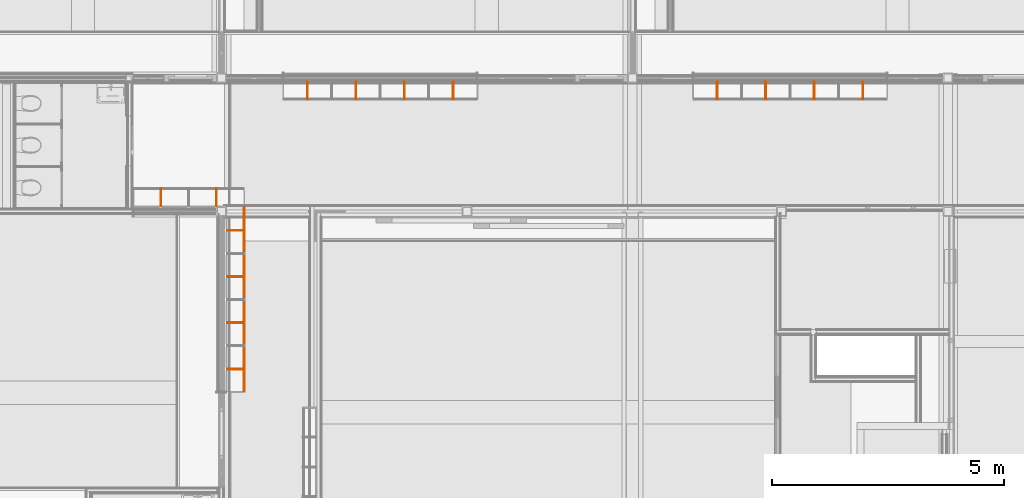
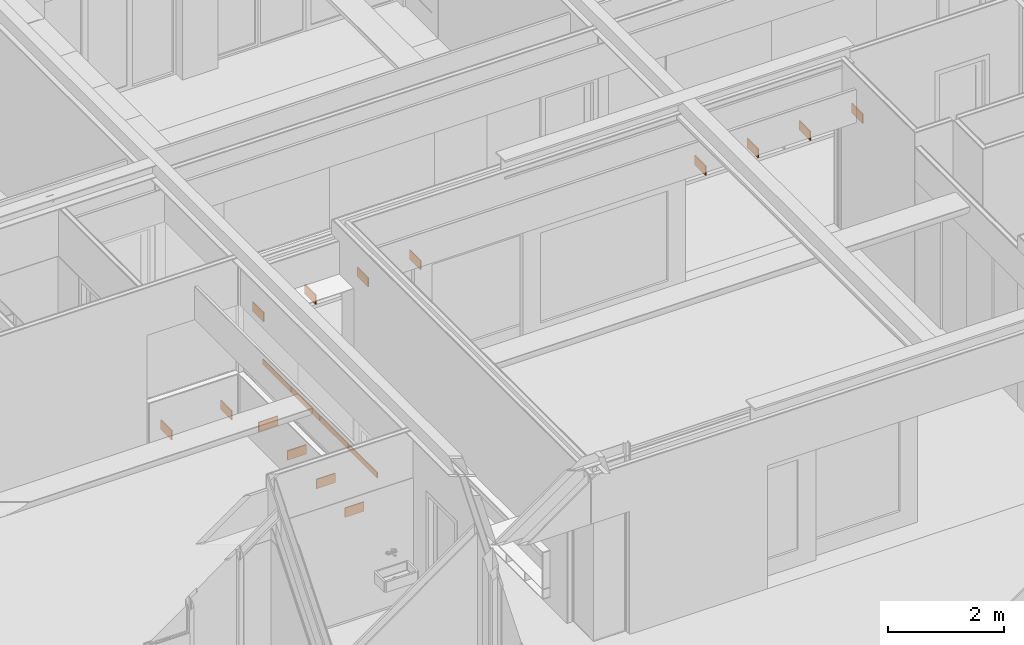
# One storey, part 165 of 165: 18 proxies.
"""IFC2X3 building model written with IfcOpenShell, lengths in millimetres."""

from ifc_helpers import new_model, entity, si_unit, converted_unit, derived_unit, money_unit, direction, frame, origin_with_axes, place, context, subcontext, project, spatial, faceted_brep, material, type_object, element, save


model = new_model("IFC2X3")

# Units and contexts
model_context = context("Model", 3, precision=0.01, world=origin_with_axes(), true_north=direction((0.0, 1.0)))
body_context = subcontext(model_context, "Body", "Model", "MODEL_VIEW")
ifc_project = project(units=[si_unit("LENGTHUNIT", "METRE", prefix="MILLI"), si_unit("AREAUNIT", "SQUARE_METRE"), si_unit("VOLUMEUNIT", "CUBIC_METRE"), converted_unit("PLANEANGLEUNIT", "DEGREE", entity("IfcPlaneAngleMeasure", 0.0174532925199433), si_unit("PLANEANGLEUNIT", "RADIAN"), dimensions=[0, 0, 0, 0, 0, 0, 0]), money_unit("EUR"), converted_unit("TIMEUNIT", "Year", entity("IfcTimeMeasure", 31556926.0), si_unit("TIMEUNIT", "SECOND"), dimensions=[0, 0, 1, 0, 0, 0, 0]), si_unit("MASSUNIT", "GRAM", prefix="KILO"), si_unit("THERMODYNAMICTEMPERATUREUNIT", "DEGREE_CELSIUS"), si_unit("LUMINOUSINTENSITYUNIT", "LUMEN"), si_unit("ENERGYUNIT", "JOULE", prefix="MEGA"), derived_unit("THERMALCONDUCTANCEUNIT", [(si_unit("POWERUNIT", "WATT"), 1), (si_unit("LENGTHUNIT", "METRE"), -1), (si_unit("THERMODYNAMICTEMPERATUREUNIT", "KELVIN"), -1)]), derived_unit("SPECIFICHEATCAPACITYUNIT", [(si_unit("ENERGYUNIT", "JOULE"), 1), (si_unit("MASSUNIT", "GRAM", prefix="KILO"), -1), (si_unit("THERMODYNAMICTEMPERATUREUNIT", "KELVIN"), -1)]), derived_unit("MASSDENSITYUNIT", [(si_unit("MASSUNIT", "GRAM", prefix="KILO"), 1), (si_unit("VOLUMEUNIT", "CUBIC_METRE"), -1)])], contexts=[model_context])

# Site, building, storey
site_placement = place(None, origin_with_axes())
site = spatial("IfcSite", under=ifc_project, at=site_placement, Name="Site", CompositionType="ELEMENT")
building_placement = place(site_placement, origin_with_axes())
building = spatial("IfcBuilding", under=site, at=building_placement, Name="Naam gebouw", CompositionType="ELEMENT")
storey_placement = place(building_placement, origin_with_axes())
storey = spatial("IfcBuildingStorey", under=building, at=storey_placement, Name="Begane grond", CompositionType="ELEMENT", Elevation=0.0)

# Proxies
ifc_material = material(Name="Hout AFW")
building_element_proxy_type_1 = type_object("IfcBuildingElementProxyType", Name="Hout AFW 18", PredefinedType="NOTDEFINED")
proxy_1_placement = place(storey_placement, frame((9350.004002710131, 15569.9998112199, 1062.0), z_axis=(0.0, 0.0, 1.0), x_axis=(0.0, 1.0, 0.0)))
element("IfcBuildingElementProxy", 1, at=proxy_1_placement, inside=storey, type_object=building_element_proxy_type_1, material=ifc_material, Name="i HOUT_Wand-x", context=body_context, shape_type="Brep", body=[
    faceted_brep([(0.0, 18.00000000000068, 0.0), (979.9999996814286, 18.00000000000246, 0.0), (979.9999996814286, 0.0, 0.0), (0.0, 0.0, 0.0), (0.0, 18.00000000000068, 117.9999999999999), (979.9999996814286, 18.00000000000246, 117.9999999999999), (979.9999996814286, 0.0, 117.9999999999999), (0.0, 0.0, 117.9999999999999)], [[[0, 1, 2, 3]], [[4, 5, 1, 0]], [[2, 1, 5, 6]], [[3, 2, 6, 7]], [[4, 0, 3, 7]], [[7, 6, 5, 4]]]),
])
proxy_2_placement = place(storey_placement, frame((9350.004002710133, 16569.99981090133, 1062.0), z_axis=(0.0, 0.0, 1.0), x_axis=(0.0, 1.0, 0.0)))
element("IfcBuildingElementProxy", 2, at=proxy_2_placement, inside=storey, type_object=building_element_proxy_type_1, material=ifc_material, Name="i HOUT_Wand-x", context=body_context, shape_type="Brep", body=[
    faceted_brep([(0.0, 18.00000000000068, 0.0), (970.0000003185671, 18.00000000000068, 0.0), (970.0000003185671, 0.0, 0.0), (0.0, 0.0, 0.0), (0.0, 18.00000000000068, 117.9999999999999), (970.0000003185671, 18.00000000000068, 117.9999999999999), (970.0000003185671, 0.0, 117.9999999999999), (0.0, 0.0, 117.9999999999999)], [[[0, 1, 2, 3]], [[4, 5, 1, 0]], [[2, 1, 5, 6]], [[3, 2, 6, 7]], [[4, 0, 3, 7]], [[7, 6, 5, 4]]]),
])
proxy_3_placement = place(storey_placement, frame((9350.004002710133, 17559.9998112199, 1062.0), z_axis=(0.0, 0.0, 1.0), x_axis=(0.0, 1.0, 0.0)))
element("IfcBuildingElementProxy", 3, at=proxy_3_placement, inside=storey, type_object=building_element_proxy_type_1, material=ifc_material, Name="i HOUT_Wand-x", context=body_context, shape_type="Brep", body=[
    faceted_brep([(0.0, 18.00000000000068, 0.0), (969.9999984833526, 18.00000000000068, 0.0), (969.9999984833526, 0.0, 0.0), (0.0, 0.0, 0.0), (0.0, 18.00000000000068, 117.9999999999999), (969.9999984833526, 18.00000000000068, 117.9999999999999), (969.9999984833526, 0.0, 117.9999999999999), (0.0, 0.0, 117.9999999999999)], [[[0, 1, 2, 3]], [[4, 5, 1, 0]], [[2, 1, 5, 6]], [[3, 2, 6, 7]], [[4, 0, 3, 7]], [[7, 6, 5, 4]]]),
])
proxy_4_placement = place(storey_placement, frame((9350.004002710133, 18549.99980970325, 1062.0), z_axis=(0.0, 0.0, 1.0), x_axis=(0.0, 1.0, 0.0)))
element("IfcBuildingElementProxy", 4, at=proxy_4_placement, inside=storey, type_object=building_element_proxy_type_1, material=ifc_material, Name="i HOUT_Wand-x", context=body_context, shape_type="Brep", body=[
    faceted_brep([(0.0, 18.00000000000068, 0.0), (980.0000015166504, 18.00000000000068, 0.0), (980.0000015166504, 0.0, 0.0), (0.0, 0.0, 0.0), (0.0, 18.00000000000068, 117.9999999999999), (980.0000015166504, 18.00000000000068, 117.9999999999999), (980.0000015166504, 0.0, 117.9999999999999), (0.0, 0.0, 117.9999999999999)], [[[0, 1, 2, 3]], [[4, 5, 1, 0]], [[2, 1, 5, 6]], [[3, 2, 6, 7]], [[4, 0, 3, 7]], [[7, 6, 5, 4]]]),
])
building_element_proxy_type_2 = type_object("IfcBuildingElementProxyType", Name="Hout AFW 20", PredefinedType="NOTDEFINED")
proxy_5_placement = place(storey_placement, frame((22667.47857350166, 22242.62391659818, 70.0), z_axis=(0.0, 0.0, 1.0), x_axis=(0.0, -1.0, 0.0)))
element("IfcBuildingElementProxy", 5, at=proxy_5_placement, inside=storey, type_object=building_element_proxy_type_2, material=ifc_material, Name="i HOUT_Wand-x", context=body_context, shape_type="Brep", body=[
    faceted_brep([(0.0, 10.00000000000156, 0.0), (380.006513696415, 10.00000000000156, 0.0), (380.006513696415, -10.00000000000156, 0.0), (0.0, -10.00000000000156, 0.0), (0.0, 10.00000000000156, 197.9999999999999), (380.006513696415, 10.00000000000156, 197.9999999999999), (380.006513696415, -10.00000000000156, 197.9999999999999), (0.0, -10.00000000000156, 197.9999999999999)], [[[0, 1, 2, 3]], [[4, 5, 1, 0]], [[2, 1, 5, 6]], [[3, 2, 6, 7]], [[4, 0, 3, 7]], [[7, 6, 5, 4]]]),
])
proxy_6_placement = place(storey_placement, frame((8742.5, 19569.85210869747, 70.0), z_axis=(0.0, 0.0, 1.0), x_axis=(0.0, 1.0, 0.0)))
element("IfcBuildingElementProxy", 6, at=proxy_6_placement, inside=storey, type_object=building_element_proxy_type_2, material=ifc_material, Name="i HOUT_Wand-x", context=body_context, shape_type="Brep", body=[
    faceted_brep([(0.0, 9.999999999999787, 0.0), (380.006513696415, 10.00000000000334, 0.0), (380.006513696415, -9.999999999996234, 0.0), (0.0, -9.999999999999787, 0.0), (0.0, 9.999999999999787, 197.9999999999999), (380.006513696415, 10.00000000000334, 197.9999999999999), (380.006513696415, -9.999999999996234, 197.9999999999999), (0.0, -9.999999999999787, 197.9999999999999)], [[[0, 1, 2, 3]], [[4, 5, 1, 0]], [[2, 1, 5, 6]], [[3, 2, 6, 7]], [[4, 0, 3, 7]], [[7, 6, 5, 4]]]),
])
for number, where, z_axis, x_axis, name in (
    (7, (8969.852297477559, 19042.49980970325, 70.0), (0.0, 0.0, 1.0), (1.0, 0.0, 0.0), "i HOUT_Wand-x"),
    (8, (8969.852297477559, 18047.4998112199, 70.0), (0.0, 0.0, 1.0), (1.0, 0.0, 0.0), "i HOUT_Wand-x"),
    (9, (8969.852297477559, 17052.49981090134, 70.0), (0.0, 0.0, 1.0), (1.0, 0.0, 0.0), "i HOUT_Wand-x"),
):
    element("IfcBuildingElementProxy", number, at=place(storey_placement, frame(where, z_axis=z_axis, x_axis=x_axis)), inside=storey, type_object=building_element_proxy_type_2, material=ifc_material, Name=name, context=body_context, shape_type="Brep", body=[
        faceted_brep([(0.0, 10.00000000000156, 0.0), (380.006513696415, 10.00000000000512, 0.0), (380.006513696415, -9.99999999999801, 0.0), (0.0, -10.00000000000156, 0.0), (0.0, 10.00000000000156, 197.9999999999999), (380.006513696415, 10.00000000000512, 197.9999999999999), (380.006513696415, -9.99999999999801, 197.9999999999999), (0.0, -10.00000000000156, 197.9999999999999)], [[[0, 1, 2, 3]], [[4, 5, 1, 0]], [[2, 1, 5, 6]], [[3, 2, 6, 7]], [[4, 0, 3, 7]], [[7, 6, 5, 4]]]),
    ])
proxy_7_placement = place(storey_placement, frame((8969.852297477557, 16057.4998112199, 70.0), z_axis=(0.0, 0.0, 1.0), x_axis=(1.0, 0.0, 0.0)))
element("IfcBuildingElementProxy", 10, at=proxy_7_placement, inside=storey, type_object=building_element_proxy_type_2, material=ifc_material, Name="i HOUT_Wand-x", context=body_context, shape_type="Brep", body=[
    faceted_brep([(0.0, 10.00000000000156, 0.0), (380.006513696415, 10.00000000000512, 0.0), (380.0065136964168, -9.99999999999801, 0.0), (0.0, -10.00000000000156, 0.0), (0.0, 10.00000000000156, 197.9999999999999), (380.006513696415, 10.00000000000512, 197.9999999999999), (380.0065136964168, -9.99999999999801, 197.9999999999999), (0.0, -10.00000000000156, 197.9999999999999)], [[[0, 1, 2, 3]], [[4, 5, 1, 0]], [[2, 1, 5, 6]], [[3, 2, 6, 7]], [[4, 0, 3, 7]], [[7, 6, 5, 4]]]),
])
proxy_8_placement = place(storey_placement, frame((7547.500015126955, 19569.85210869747, 70.0), z_axis=(0.0, 0.0, 1.0), x_axis=(0.0, 1.0, 0.0)))
element("IfcBuildingElementProxy", 11, at=proxy_8_placement, inside=storey, type_object=building_element_proxy_type_2, material=ifc_material, Name="i HOUT_Wand-x", context=body_context, shape_type="Brep", body=[
    faceted_brep([(0.0, 9.999999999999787, 0.0), (380.006513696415, 10.00000000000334, 0.0), (380.006513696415, -9.999999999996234, 0.0), (0.0, -9.999999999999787, 0.0), (0.0, 9.999999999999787, 197.9999999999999), (380.006513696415, 10.00000000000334, 197.9999999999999), (380.006513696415, -9.999999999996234, 197.9999999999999), (0.0, -9.999999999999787, 197.9999999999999)], [[[0, 1, 2, 3]], [[4, 5, 1, 0]], [[2, 1, 5, 6]], [[3, 2, 6, 7]], [[4, 0, 3, 7]], [[7, 6, 5, 4]]]),
])
for number, where, z_axis, x_axis, name in (
    (12, (20577.49494669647, 22242.62391659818, 70.0), (0.0, 0.0, 1.0), (0.0, -1.0, 0.0), "i HOUT_Wand-x"),
    (13, (21622.48676009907, 22242.62391659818, 70.0), (0.0, 0.0, 1.0), (0.0, -1.0, 0.0), "i HOUT_Wand-x"),
):
    element("IfcBuildingElementProxy", number, at=place(storey_placement, frame(where, z_axis=z_axis, x_axis=x_axis)), inside=storey, type_object=building_element_proxy_type_2, material=ifc_material, Name=name, context=body_context, shape_type="Brep", body=[
        faceted_brep([(0.0, 10.00000000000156, 0.0), (380.006513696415, 10.00000000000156, 0.0), (380.006513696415, -10.00000000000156, 0.0), (0.0, -10.00000000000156, 0.0), (0.0, 10.00000000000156, 197.9999999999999), (380.006513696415, 10.00000000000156, 197.9999999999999), (380.006513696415, -10.00000000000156, 197.9999999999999), (0.0, -10.00000000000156, 197.9999999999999)], [[[0, 1, 2, 3]], [[4, 5, 1, 0]], [[2, 1, 5, 6]], [[3, 2, 6, 7]], [[4, 0, 3, 7]], [[7, 6, 5, 4]]]),
    ])
proxy_9_placement = place(storey_placement, frame((13837.4795335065, 22242.62391659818, 70.0), z_axis=(0.0, 0.0, 1.0), x_axis=(0.0, -1.0, 0.0)))
element("IfcBuildingElementProxy", 14, at=proxy_9_placement, inside=storey, type_object=building_element_proxy_type_2, material=ifc_material, Name="i HOUT_Wand-x", context=body_context, shape_type="Brep", body=[
    faceted_brep([(0.0, 9.999999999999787, 0.0), (380.006513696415, 9.999999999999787, 0.0), (380.006513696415, -9.999999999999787, 0.0), (0.0, -9.999999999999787, 0.0), (0.0, 9.999999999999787, 197.9999999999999), (380.006513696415, 9.999999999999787, 197.9999999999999), (380.006513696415, -9.999999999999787, 197.9999999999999), (0.0, -9.999999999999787, 197.9999999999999)], [[[0, 1, 2, 3]], [[4, 5, 1, 0]], [[2, 1, 5, 6]], [[3, 2, 6, 7]], [[4, 0, 3, 7]], [[7, 6, 5, 4]]]),
])
proxy_10_placement = place(storey_placement, frame((19532.49903999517, 22242.62391659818, 70.0), z_axis=(0.0, 0.0, 1.0), x_axis=(0.0, -1.0, 0.0)))
element("IfcBuildingElementProxy", 15, at=proxy_10_placement, inside=storey, type_object=building_element_proxy_type_2, material=ifc_material, Name="i HOUT_Wand-x", context=body_context, shape_type="Brep", body=[
    faceted_brep([(0.0, 10.00000000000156, 0.0), (380.006513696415, 10.00000000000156, 0.0), (380.006513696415, -10.00000000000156, 0.0), (0.0, -10.00000000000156, 0.0), (0.0, 10.00000000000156, 197.9999999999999), (380.006513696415, 10.00000000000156, 197.9999999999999), (380.006513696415, -10.00000000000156, 197.9999999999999), (0.0, -10.00000000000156, 197.9999999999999)], [[[0, 1, 2, 3]], [[4, 5, 1, 0]], [[2, 1, 5, 6]], [[3, 2, 6, 7]], [[4, 0, 3, 7]], [[7, 6, 5, 4]]]),
])
for number, where, z_axis, x_axis, name in (
    (16, (12792.48772010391, 22242.62391659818, 70.0), (0.0, 0.0, 1.0), (0.0, -1.0, 0.0), "i HOUT_Wand-x"),
    (17, (10702.50000000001, 22242.62391659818, 70.0), (0.0, 0.0, 1.0), (0.0, -1.0, 0.0), "i HOUT_Wand-x"),
    (18, (11747.49590670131, 22242.62391659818, 70.0), (0.0, 0.0, 1.0), (0.0, -1.0, 0.0), "i HOUT_Wand-x"),
):
    element("IfcBuildingElementProxy", number, at=place(storey_placement, frame(where, z_axis=z_axis, x_axis=x_axis)), inside=storey, type_object=building_element_proxy_type_2, material=ifc_material, Name=name, context=body_context, shape_type="Brep", body=[
        faceted_brep([(0.0, 9.999999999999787, 0.0), (380.006513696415, 9.999999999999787, 0.0), (380.006513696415, -9.999999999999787, 0.0), (0.0, -9.999999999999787, 0.0), (0.0, 9.999999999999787, 197.9999999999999), (380.006513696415, 9.999999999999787, 197.9999999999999), (380.006513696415, -9.999999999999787, 197.9999999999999), (0.0, -9.999999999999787, 197.9999999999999)], [[[0, 1, 2, 3]], [[4, 5, 1, 0]], [[2, 1, 5, 6]], [[3, 2, 6, 7]], [[4, 0, 3, 7]], [[7, 6, 5, 4]]]),
    ])

save(model, "model.ifc")
